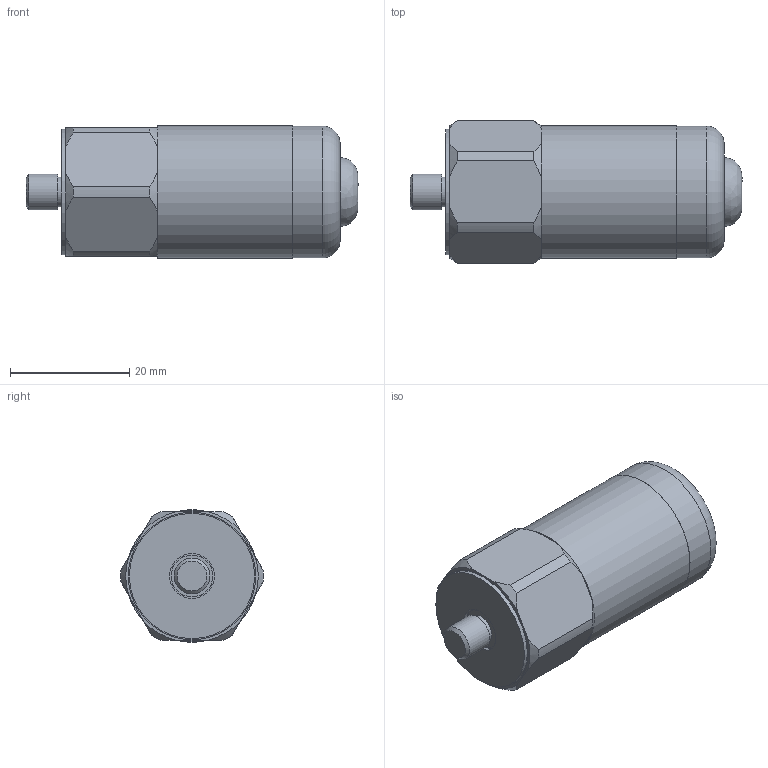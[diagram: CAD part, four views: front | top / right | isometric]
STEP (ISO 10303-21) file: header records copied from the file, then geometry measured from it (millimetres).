
FILE_DESCRIPTION(/* description */ (''),/* implementation_level */ '2;1');
FILE_NAME(/* name */ 'Z:\Engineering\Drawings\3D Library\Assemblies\Website\Premium Top\HS-150 Top Braided Cable\HS-150XXX0206.stp',/* time_stamp */ '2023-03-12T11:09:21+00:00',/* author */ ('Ricardo.Peneda'),/* organization */ (''),/* preprocessor_version */ 'ST-DEVELOPER v18.1',/* originating_system */ 'Autodesk Inventor 2021',/* authorisation */ '');
FILE_SCHEMA (('AUTOMOTIVE_DESIGN { 1 0 10303 214 3 1 1 }'));
Length unit declared in the file: inch
Products named in the file (1): HS-150XXX0206_Shrinkwrap_1
Bounding box: 55.7 x 23.99 x 22.2 mm (x, y, z)
Volume: 12249.5 mm3; surface area: 7061.5 mm2
Topology: 3 solids, 3 shells, 68 faces, 179 edges, 130 vertices
Faces by surface type: plane 31, cylinder 22, cone 13, torus 1, bspline 1
Full cylindrical faces by diameter (mm): 4.2 x1, 5 x2, 5.359 x1, 6 x1, 6.35 x1, 7 x1, 7.5 x1, 13.941 x1, 15.055 x1, 17.941 x1, 19.891 x1, 20 x1, 21 x1, 22.141 x1, 22.2 x1
Entity records: 2312 total; most frequent: CARTESIAN_POINT 451, DIRECTION 397, ORIENTED_EDGE 356, EDGE_CURVE 178, AXIS2_PLACEMENT_3D 175, VERTEX_POINT 130, CIRCLE 107, EDGE_LOOP 84
